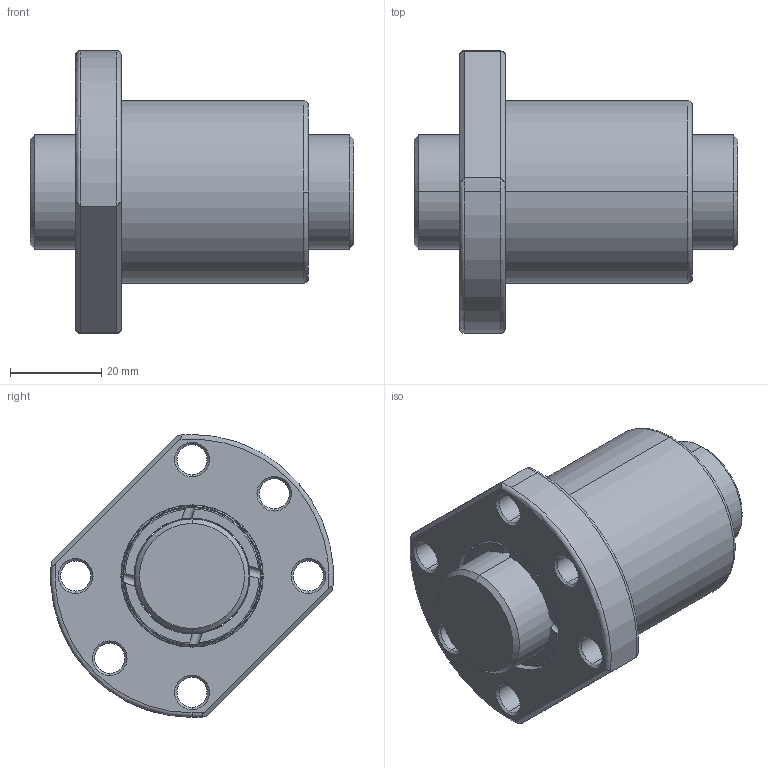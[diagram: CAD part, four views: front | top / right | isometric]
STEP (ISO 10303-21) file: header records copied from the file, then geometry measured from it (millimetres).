
FILE_DESCRIPTION (( 'STEP AP203' ), '1' );
FILE_NAME ('SFUR02505T4D-C.STEP', '2020-06-18T02:07:55', ( '' ), ( '' ), 'SwSTEP 2.0', 'SolidWorks 2013', '' );
FILE_SCHEMA (( 'CONFIG_CONTROL_DESIGN' ));
Length unit declared in the file: millimetre
Products named in the file (1): SFUR02505T4D-C
Bounding box: 71 x 61.95 x 62 mm (x, y, z)
Volume: 81722.5 mm3; surface area: 25360.3 mm2
Topology: 2 solids, 2 shells, 122 faces, 314 edges, 200 vertices
Faces by surface type: cylinder 55, plane 26, torus 25, cone 16
Entity records: 4740 total; most frequent: CARTESIAN_POINT 1671, DIRECTION 637, ORIENTED_EDGE 628, EDGE_CURVE 314, AXIS2_PLACEMENT_3D 276, VERTEX_POINT 200, CIRCLE 153, EDGE_LOOP 144
